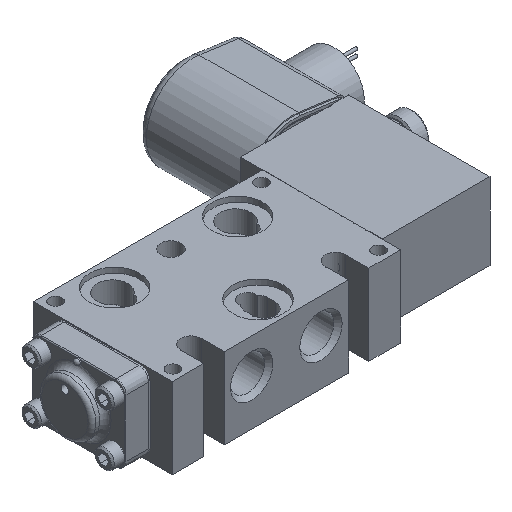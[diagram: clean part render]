
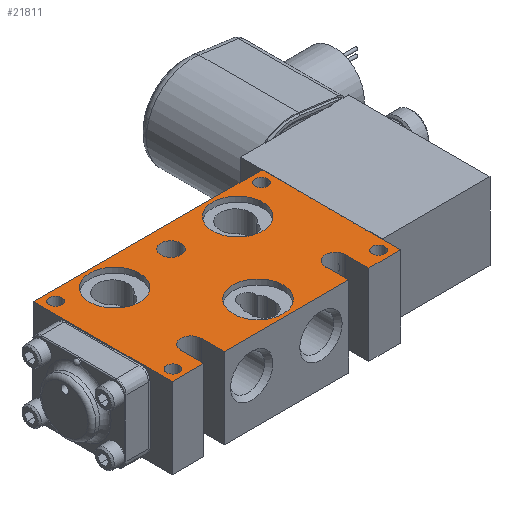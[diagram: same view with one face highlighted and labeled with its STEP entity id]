
A CAD part, isometric view. The second image highlights one B-rep face of the part: STEP entity #21811.
In plain terms, the highlighted planar face has unit normal (0, 0, 1).
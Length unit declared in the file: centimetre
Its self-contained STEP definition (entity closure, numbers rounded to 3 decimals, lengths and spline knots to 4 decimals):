
#1362=FACE_BOUND('',#3753,.T.);
#1363=FACE_BOUND('',#3754,.T.);
#1364=FACE_BOUND('',#3755,.T.);
#1365=FACE_BOUND('',#3756,.T.);
#1366=FACE_BOUND('',#3757,.T.);
#1367=FACE_BOUND('',#3758,.T.);
#1368=FACE_BOUND('',#3759,.T.);
#1369=FACE_BOUND('',#3760,.T.);
#2360=FACE_OUTER_BOUND('',#3752,.T.);
#3752=EDGE_LOOP('',(#17695,#17696,#17697,#17698,#17699,#17700,#17701,#17702,
#17703,#17704,#17705,#17706));
#3753=EDGE_LOOP('',(#17707,#17708));
#3754=EDGE_LOOP('',(#17709));
#3755=EDGE_LOOP('',(#17710));
#3756=EDGE_LOOP('',(#17711));
#3757=EDGE_LOOP('',(#17712,#17713));
#3758=EDGE_LOOP('',(#17714,#17715));
#3759=EDGE_LOOP('',(#17716,#17717));
#3760=EDGE_LOOP('',(#17718,#17719));
#5313=LINE('',#39686,#6725);
#5314=LINE('',#39688,#6726);
#5315=LINE('',#39690,#6727);
#5316=LINE('',#39692,#6728);
#5317=LINE('',#39696,#6729);
#5318=LINE('',#39698,#6730);
#5319=LINE('',#39700,#6731);
#5320=LINE('',#39704,#6732);
#5321=LINE('',#39706,#6733);
#5322=LINE('',#39707,#6734);
#6725=VECTOR('',#29069,1.);
#6726=VECTOR('',#29070,1.);
#6727=VECTOR('',#29071,1.);
#6728=VECTOR('',#29072,1.);
#6729=VECTOR('',#29075,1.);
#6730=VECTOR('',#29076,1.);
#6731=VECTOR('',#29077,1.);
#6732=VECTOR('',#29080,1.);
#6733=VECTOR('',#29081,1.);
#6734=VECTOR('',#29082,1.);
#7782=CIRCLE('',#23874,0.4166);
#7783=CIRCLE('',#23875,0.4166);
#7784=CIRCLE('',#23876,0.4167);
#7785=CIRCLE('',#23877,0.4167);
#7786=CIRCLE('',#23878,1.0312);
#7787=CIRCLE('',#23879,1.0312);
#7788=CIRCLE('',#23880,1.0312);
#7789=CIRCLE('',#23881,0.2578);
#7790=CIRCLE('',#23882,0.2578);
#7791=CIRCLE('',#23883,0.2578);
#7792=CIRCLE('',#23884,0.2578);
#7793=CIRCLE('',#23885,0.2578);
#7794=CIRCLE('',#23886,0.2578);
#7795=CIRCLE('',#23887,0.2578);
#7796=CIRCLE('',#23888,0.2578);
#9626=VERTEX_POINT('',#39684);
#9627=VERTEX_POINT('',#39685);
#9628=VERTEX_POINT('',#39687);
#9629=VERTEX_POINT('',#39689);
#9630=VERTEX_POINT('',#39691);
#9631=VERTEX_POINT('',#39693);
#9632=VERTEX_POINT('',#39695);
#9633=VERTEX_POINT('',#39697);
#9634=VERTEX_POINT('',#39699);
#9635=VERTEX_POINT('',#39701);
#9636=VERTEX_POINT('',#39703);
#9637=VERTEX_POINT('',#39705);
#9638=VERTEX_POINT('',#39708);
#9639=VERTEX_POINT('',#39709);
#9640=VERTEX_POINT('',#39712);
#9641=VERTEX_POINT('',#39714);
#9642=VERTEX_POINT('',#39716);
#9643=VERTEX_POINT('',#39718);
#9644=VERTEX_POINT('',#39719);
#9645=VERTEX_POINT('',#39722);
#9646=VERTEX_POINT('',#39723);
#9647=VERTEX_POINT('',#39726);
#9648=VERTEX_POINT('',#39727);
#9649=VERTEX_POINT('',#39730);
#9650=VERTEX_POINT('',#39731);
#12434=EDGE_CURVE('',#9626,#9627,#5313,.T.);
#12435=EDGE_CURVE('',#9628,#9626,#5314,.T.);
#12436=EDGE_CURVE('',#9629,#9628,#5315,.T.);
#12437=EDGE_CURVE('',#9630,#9629,#5316,.T.);
#12438=EDGE_CURVE('',#9631,#9630,#7782,.T.);
#12439=EDGE_CURVE('',#9632,#9631,#5317,.T.);
#12440=EDGE_CURVE('',#9633,#9632,#5318,.T.);
#12441=EDGE_CURVE('',#9634,#9633,#5319,.T.);
#12442=EDGE_CURVE('',#9635,#9634,#7783,.T.);
#12443=EDGE_CURVE('',#9636,#9635,#5320,.T.);
#12444=EDGE_CURVE('',#9637,#9636,#5321,.T.);
#12445=EDGE_CURVE('',#9627,#9637,#5322,.T.);
#12446=EDGE_CURVE('',#9638,#9639,#7784,.T.);
#12447=EDGE_CURVE('',#9639,#9638,#7785,.T.);
#12448=EDGE_CURVE('',#9640,#9640,#7786,.T.);
#12449=EDGE_CURVE('',#9641,#9641,#7787,.T.);
#12450=EDGE_CURVE('',#9642,#9642,#7788,.T.);
#12451=EDGE_CURVE('',#9643,#9644,#7789,.T.);
#12452=EDGE_CURVE('',#9644,#9643,#7790,.T.);
#12453=EDGE_CURVE('',#9645,#9646,#7791,.T.);
#12454=EDGE_CURVE('',#9646,#9645,#7792,.T.);
#12455=EDGE_CURVE('',#9647,#9648,#7793,.T.);
#12456=EDGE_CURVE('',#9648,#9647,#7794,.T.);
#12457=EDGE_CURVE('',#9649,#9650,#7795,.T.);
#12458=EDGE_CURVE('',#9650,#9649,#7796,.T.);
#17695=ORIENTED_EDGE('',*,*,#12434,.F.);
#17696=ORIENTED_EDGE('',*,*,#12435,.F.);
#17697=ORIENTED_EDGE('',*,*,#12436,.F.);
#17698=ORIENTED_EDGE('',*,*,#12437,.F.);
#17699=ORIENTED_EDGE('',*,*,#12438,.F.);
#17700=ORIENTED_EDGE('',*,*,#12439,.F.);
#17701=ORIENTED_EDGE('',*,*,#12440,.F.);
#17702=ORIENTED_EDGE('',*,*,#12441,.F.);
#17703=ORIENTED_EDGE('',*,*,#12442,.F.);
#17704=ORIENTED_EDGE('',*,*,#12443,.F.);
#17705=ORIENTED_EDGE('',*,*,#12444,.F.);
#17706=ORIENTED_EDGE('',*,*,#12445,.F.);
#17707=ORIENTED_EDGE('',*,*,#12446,.T.);
#17708=ORIENTED_EDGE('',*,*,#12447,.T.);
#17709=ORIENTED_EDGE('',*,*,#12448,.T.);
#17710=ORIENTED_EDGE('',*,*,#12449,.T.);
#17711=ORIENTED_EDGE('',*,*,#12450,.T.);
#17712=ORIENTED_EDGE('',*,*,#12451,.T.);
#17713=ORIENTED_EDGE('',*,*,#12452,.T.);
#17714=ORIENTED_EDGE('',*,*,#12453,.T.);
#17715=ORIENTED_EDGE('',*,*,#12454,.T.);
#17716=ORIENTED_EDGE('',*,*,#12455,.T.);
#17717=ORIENTED_EDGE('',*,*,#12456,.T.);
#17718=ORIENTED_EDGE('',*,*,#12457,.T.);
#17719=ORIENTED_EDGE('',*,*,#12458,.T.);
#19875=PLANE('',#23873);
#21811=ADVANCED_FACE('',(#2360,#1362,#1363,#1364,#1365,#1366,#1367,#1368,
#1369),#19875,.T.);
#23873=AXIS2_PLACEMENT_3D('',#39683,#29067,#29068);
#23874=AXIS2_PLACEMENT_3D('',#39694,#29073,#29074);
#23875=AXIS2_PLACEMENT_3D('',#39702,#29078,#29079);
#23876=AXIS2_PLACEMENT_3D('',#39710,#29083,#29084);
#23877=AXIS2_PLACEMENT_3D('',#39711,#29085,#29086);
#23878=AXIS2_PLACEMENT_3D('',#39713,#29087,#29088);
#23879=AXIS2_PLACEMENT_3D('',#39715,#29089,#29090);
#23880=AXIS2_PLACEMENT_3D('',#39717,#29091,#29092);
#23881=AXIS2_PLACEMENT_3D('',#39720,#29093,#29094);
#23882=AXIS2_PLACEMENT_3D('',#39721,#29095,#29096);
#23883=AXIS2_PLACEMENT_3D('',#39724,#29097,#29098);
#23884=AXIS2_PLACEMENT_3D('',#39725,#29099,#29100);
#23885=AXIS2_PLACEMENT_3D('',#39728,#29101,#29102);
#23886=AXIS2_PLACEMENT_3D('',#39729,#29103,#29104);
#23887=AXIS2_PLACEMENT_3D('',#39732,#29105,#29106);
#23888=AXIS2_PLACEMENT_3D('',#39733,#29107,#29108);
#29067=DIRECTION('center_axis',(0.,0.,1.));
#29068=DIRECTION('ref_axis',(1.,0.,0.));
#29069=DIRECTION('',(1.,0.,0.));
#29070=DIRECTION('',(0.,1.,0.));
#29071=DIRECTION('',(-1.,0.,0.));
#29072=DIRECTION('',(0.,-1.,0.));
#29073=DIRECTION('center_axis',(0.,0.,1.));
#29074=DIRECTION('ref_axis',(1.,0.,0.));
#29075=DIRECTION('',(0.,1.,0.));
#29076=DIRECTION('',(-1.,0.,0.));
#29077=DIRECTION('',(0.,-1.,0.));
#29078=DIRECTION('center_axis',(0.,0.,1.));
#29079=DIRECTION('ref_axis',(1.,0.,0.));
#29080=DIRECTION('',(0.,1.,0.));
#29081=DIRECTION('',(-1.,0.,0.));
#29082=DIRECTION('',(0.,-1.,0.));
#29083=DIRECTION('center_axis',(0.,0.,-1.));
#29084=DIRECTION('ref_axis',(1.,0.,0.));
#29085=DIRECTION('center_axis',(0.,0.,-1.));
#29086=DIRECTION('ref_axis',(1.,0.,0.));
#29087=DIRECTION('center_axis',(0.,0.,-1.));
#29088=DIRECTION('ref_axis',(-1.,0.,0.));
#29089=DIRECTION('center_axis',(0.,0.,-1.));
#29090=DIRECTION('ref_axis',(-1.,0.,0.));
#29091=DIRECTION('center_axis',(0.,0.,-1.));
#29092=DIRECTION('ref_axis',(-1.,0.,0.));
#29093=DIRECTION('center_axis',(0.,0.,-1.));
#29094=DIRECTION('ref_axis',(1.,0.,0.));
#29095=DIRECTION('center_axis',(0.,0.,-1.));
#29096=DIRECTION('ref_axis',(1.,0.,0.));
#29097=DIRECTION('center_axis',(0.,0.,-1.));
#29098=DIRECTION('ref_axis',(1.,0.,0.));
#29099=DIRECTION('center_axis',(0.,0.,-1.));
#29100=DIRECTION('ref_axis',(1.,0.,0.));
#29101=DIRECTION('center_axis',(0.,0.,-1.));
#29102=DIRECTION('ref_axis',(1.,0.,0.));
#29103=DIRECTION('center_axis',(0.,0.,-1.));
#29104=DIRECTION('ref_axis',(1.,0.,0.));
#29105=DIRECTION('center_axis',(0.,0.,-1.));
#29106=DIRECTION('ref_axis',(1.,0.,0.));
#29107=DIRECTION('center_axis',(0.,0.,-1.));
#29108=DIRECTION('ref_axis',(1.,0.,0.));
#39683=CARTESIAN_POINT('Origin',(0.,-0.2475,
1.6662));
#39684=CARTESIAN_POINT('',(-4.7117,2.8575,1.6662));
#39685=CARTESIAN_POINT('',(4.7117,2.8575,1.6662));
#39686=CARTESIAN_POINT('',(-4.7117,2.8575,1.6662));
#39687=CARTESIAN_POINT('',(-4.7117,-2.8575,1.6662));
#39688=CARTESIAN_POINT('',(-4.7117,-2.8575,1.6662));
#39689=CARTESIAN_POINT('',(-3.4011,-2.8575,1.6662));
#39690=CARTESIAN_POINT('',(-3.4011,-2.8575,1.6662));
#39691=CARTESIAN_POINT('',(-3.4011,-1.905,1.6662));
#39692=CARTESIAN_POINT('',(-3.4011,-1.905,1.6662));
#39693=CARTESIAN_POINT('',(-2.5679,-1.905,1.6662));
#39694=CARTESIAN_POINT('Origin',(-2.9845,-1.905,1.6662));
#39695=CARTESIAN_POINT('',(-2.5679,-2.8575,1.6662));
#39696=CARTESIAN_POINT('',(-2.5679,-2.8575,1.6662));
#39697=CARTESIAN_POINT('',(2.5679,-2.8575,1.6662));
#39698=CARTESIAN_POINT('',(2.5679,-2.8575,1.6662));
#39699=CARTESIAN_POINT('',(2.5679,-1.905,1.6662));
#39700=CARTESIAN_POINT('',(2.5679,-1.905,1.6662));
#39701=CARTESIAN_POINT('',(3.4011,-1.905,1.6662));
#39702=CARTESIAN_POINT('Origin',(2.9845,-1.905,1.6662));
#39703=CARTESIAN_POINT('',(3.4011,-2.8575,1.6662));
#39704=CARTESIAN_POINT('',(3.4011,-2.8575,1.6662));
#39705=CARTESIAN_POINT('',(4.7117,-2.8575,1.6662));
#39706=CARTESIAN_POINT('',(4.7117,-2.8575,1.6662));
#39707=CARTESIAN_POINT('',(4.7117,2.8575,1.6662));
#39708=CARTESIAN_POINT('',(0.4167,1.905,1.6662));
#39709=CARTESIAN_POINT('',(-0.4167,1.905,1.6662));
#39710=CARTESIAN_POINT('Origin',(0.,1.905,1.6662));
#39711=CARTESIAN_POINT('Origin',(0.,1.905,1.6662));
#39712=CARTESIAN_POINT('',(3.5712,1.6891,1.6662));
#39713=CARTESIAN_POINT('Origin',(2.54,1.6891,1.6662));
#39714=CARTESIAN_POINT('',(1.0312,-1.6891,1.6662));
#39715=CARTESIAN_POINT('Origin',(0.,-1.6891,1.6662));
#39716=CARTESIAN_POINT('',(-1.5088,1.6891,1.6662));
#39717=CARTESIAN_POINT('Origin',(-2.54,1.6891,1.6662));
#39718=CARTESIAN_POINT('',(4.5047,-2.4206,1.6662));
#39719=CARTESIAN_POINT('',(3.9891,-2.4206,1.6662));
#39720=CARTESIAN_POINT('Origin',(4.2469,-2.4206,1.6662));
#39721=CARTESIAN_POINT('Origin',(4.2469,-2.4206,1.6662));
#39722=CARTESIAN_POINT('',(-3.9865,-2.4206,1.6662));
#39723=CARTESIAN_POINT('',(-4.5022,-2.4206,1.6662));
#39724=CARTESIAN_POINT('Origin',(-4.2443,-2.4206,1.6662));
#39725=CARTESIAN_POINT('Origin',(-4.2443,-2.4206,1.6662));
#39726=CARTESIAN_POINT('',(4.5047,2.4206,1.6662));
#39727=CARTESIAN_POINT('',(3.9891,2.4206,1.6662));
#39728=CARTESIAN_POINT('Origin',(4.2469,2.4206,1.6662));
#39729=CARTESIAN_POINT('Origin',(4.2469,2.4206,1.6662));
#39730=CARTESIAN_POINT('',(-3.9865,2.4206,1.6662));
#39731=CARTESIAN_POINT('',(-4.5022,2.4206,1.6662));
#39732=CARTESIAN_POINT('Origin',(-4.2443,2.4206,1.6662));
#39733=CARTESIAN_POINT('Origin',(-4.2443,2.4206,1.6662));
